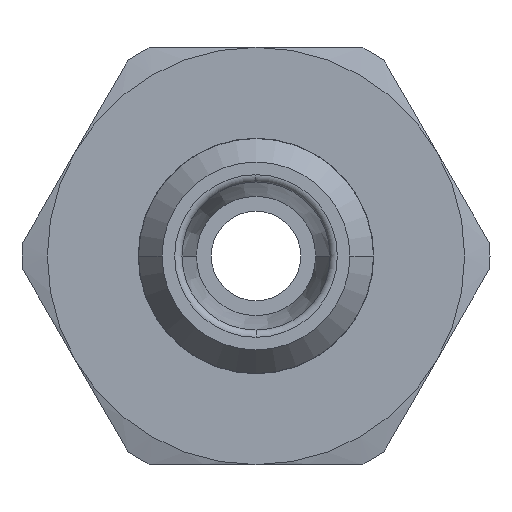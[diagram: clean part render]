
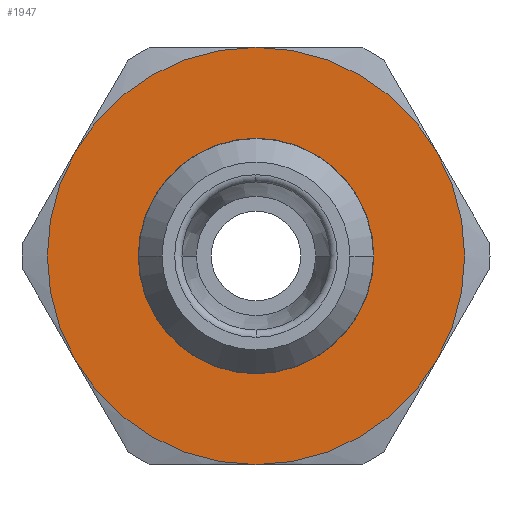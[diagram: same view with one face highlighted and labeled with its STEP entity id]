
A CAD part, left-side view. The second image highlights one B-rep face of the part: STEP entity #1947.
In plain terms, the highlighted planar face has unit normal (-1, 0, 0) as drawn and (0, 0, 1) by its records, which use the part's own axes.
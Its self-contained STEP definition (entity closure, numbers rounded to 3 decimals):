
#857=CARTESIAN_POINT('',(-3.95,0.,2.));
#858=VERTEX_POINT('',#857);
#884=CARTESIAN_POINT('',(3.95,0.,2.));
#885=VERTEX_POINT('',#884);
#893=CARTESIAN_POINT('',(0.,0.,2.0));
#894=DIRECTION('',(0.0,0.0,1.0));
#895=DIRECTION('',(-1.0,0.0,0.0));
#896=AXIS2_PLACEMENT_3D('',#893,#894,#895);
#897=CIRCLE('',#896,3.95);
#898=EDGE_CURVE('',#885,#858,#897,.T.);
#1827=CARTESIAN_POINT('',(0.,-3.95,2.));
#1828=VERTEX_POINT('',#1827);
#1829=CARTESIAN_POINT('',(0.,0.,2.0));
#1830=DIRECTION('',(0.0,0.0,1.0));
#1831=DIRECTION('',(-1.0,0.0,0.0));
#1832=AXIS2_PLACEMENT_3D('',#1829,#1830,#1831);
#1833=CIRCLE('',#1832,3.95);
#1834=EDGE_CURVE('',#858,#1828,#1833,.T.);
#1836=CARTESIAN_POINT('',(0.,0.,2.0));
#1837=DIRECTION('',(0.0,0.0,1.0));
#1838=DIRECTION('',(-1.0,0.0,0.0));
#1839=AXIS2_PLACEMENT_3D('',#1836,#1837,#1838);
#1840=CIRCLE('',#1839,3.95);
#1841=EDGE_CURVE('',#1828,#885,#1840,.T.);
#1881=CARTESIAN_POINT('',(0.0,0.,2.0));
#1882=DIRECTION('',(0.0,0.0,1.0));
#1883=DIRECTION('',(1.0,0.0,0.0));
#1884=AXIS2_PLACEMENT_3D('',#1881,#1882,#1883);
#1885=PLANE('',#1884);
#1886=CARTESIAN_POINT('',(3.5,-6.062,2.));
#1887=VERTEX_POINT('',#1886);
#1888=CARTESIAN_POINT('',(7.,0.0,2.));
#1889=VERTEX_POINT('',#1888);
#1890=CARTESIAN_POINT('',(0.,0.0,2.0));
#1891=DIRECTION('',(0.0,0.0,1.0));
#1892=DIRECTION('',(1.0,0.0,0.0));
#1893=AXIS2_PLACEMENT_3D('',#1890,#1891,#1892);
#1894=CIRCLE('',#1893,7.);
#1895=EDGE_CURVE('',#1887,#1889,#1894,.T.);
#1896=ORIENTED_EDGE('',*,*,#1895,.T.);
#1897=CARTESIAN_POINT('',(3.5,6.062,2.));
#1898=VERTEX_POINT('',#1897);
#1899=CARTESIAN_POINT('',(0.,0.0,2.0));
#1900=DIRECTION('',(0.0,0.0,1.0));
#1901=DIRECTION('',(1.0,0.0,0.0));
#1902=AXIS2_PLACEMENT_3D('',#1899,#1900,#1901);
#1903=CIRCLE('',#1902,7.);
#1904=EDGE_CURVE('',#1889,#1898,#1903,.T.);
#1905=ORIENTED_EDGE('',*,*,#1904,.T.);
#1906=CARTESIAN_POINT('',(-3.5,6.062,2.));
#1907=VERTEX_POINT('',#1906);
#1908=CARTESIAN_POINT('',(0.,0.0,2.0));
#1909=DIRECTION('',(0.0,0.0,1.0));
#1910=DIRECTION('',(1.0,0.0,0.0));
#1911=AXIS2_PLACEMENT_3D('',#1908,#1909,#1910);
#1912=CIRCLE('',#1911,7.);
#1913=EDGE_CURVE('',#1898,#1907,#1912,.T.);
#1914=ORIENTED_EDGE('',*,*,#1913,.T.);
#1915=CARTESIAN_POINT('',(-7.,0.,2.));
#1916=VERTEX_POINT('',#1915);
#1917=CARTESIAN_POINT('',(0.,0.0,2.0));
#1918=DIRECTION('',(0.0,0.0,1.0));
#1919=DIRECTION('',(1.0,0.0,0.0));
#1920=AXIS2_PLACEMENT_3D('',#1917,#1918,#1919);
#1921=CIRCLE('',#1920,7.);
#1922=EDGE_CURVE('',#1907,#1916,#1921,.T.);
#1923=ORIENTED_EDGE('',*,*,#1922,.T.);
#1924=CARTESIAN_POINT('',(-3.5,-6.062,2.));
#1925=VERTEX_POINT('',#1924);
#1926=CARTESIAN_POINT('',(0.,0.0,2.0));
#1927=DIRECTION('',(0.0,0.0,1.0));
#1928=DIRECTION('',(1.0,0.0,0.0));
#1929=AXIS2_PLACEMENT_3D('',#1926,#1927,#1928);
#1930=CIRCLE('',#1929,7.);
#1931=EDGE_CURVE('',#1916,#1925,#1930,.T.);
#1932=ORIENTED_EDGE('',*,*,#1931,.T.);
#1933=CARTESIAN_POINT('',(0.,0.0,2.0));
#1934=DIRECTION('',(0.0,0.0,1.0));
#1935=DIRECTION('',(1.0,0.0,0.0));
#1936=AXIS2_PLACEMENT_3D('',#1933,#1934,#1935);
#1937=CIRCLE('',#1936,7.);
#1938=EDGE_CURVE('',#1925,#1887,#1937,.T.);
#1939=ORIENTED_EDGE('',*,*,#1938,.T.);
#1940=EDGE_LOOP('',(#1896,#1905,#1914,#1923,#1932,#1939));
#1941=FACE_OUTER_BOUND('',#1940,.T.);
#1942=ORIENTED_EDGE('',*,*,#1841,.F.);
#1943=ORIENTED_EDGE('',*,*,#1834,.F.);
#1944=ORIENTED_EDGE('',*,*,#898,.F.);
#1945=EDGE_LOOP('',(#1942,#1943,#1944));
#1946=FACE_BOUND('',#1945,.T.);
#1947=ADVANCED_FACE('',(#1941,#1946),#1885,.T.);
